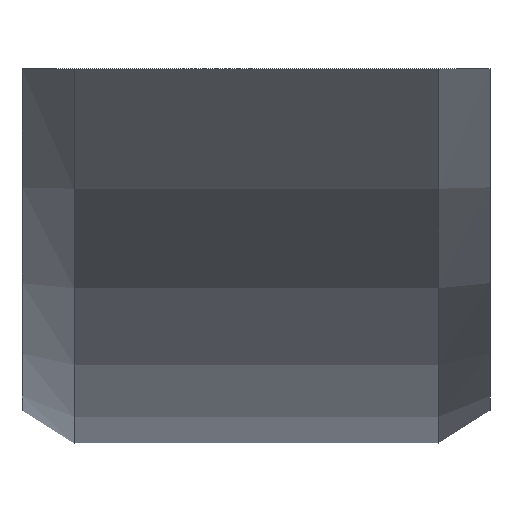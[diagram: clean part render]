
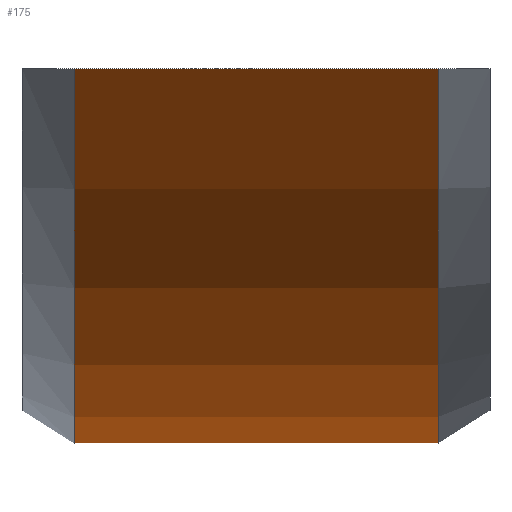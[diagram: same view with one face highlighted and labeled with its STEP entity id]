
A CAD part, front view. The second image highlights one B-rep face of the part: STEP entity #175.
In plain terms, the highlighted cylindrical face has radius 50 mm (diameter 100 mm), a partial arc.
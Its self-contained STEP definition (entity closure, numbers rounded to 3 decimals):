
#16=CYLINDRICAL_SURFACE('',#215,50.);
#22=CIRCLE('',#207,50.);
#26=CIRCLE('',#214,50.);
#34=FACE_OUTER_BOUND('',#44,.T.);
#44=EDGE_LOOP('',(#152,#153,#154,#155));
#55=LINE('',#284,#67);
#61=LINE('',#304,#73);
#67=VECTOR('',#227,10.);
#73=VECTOR('',#233,10.);
#80=VERTEX_POINT('',#279);
#81=VERTEX_POINT('',#283);
#88=VERTEX_POINT('',#299);
#89=VERTEX_POINT('',#303);
#96=EDGE_CURVE('',#81,#80,#55,.T.);
#104=EDGE_CURVE('',#89,#88,#61,.T.);
#110=EDGE_CURVE('',#81,#88,#22,.T.);
#114=EDGE_CURVE('',#80,#89,#26,.T.);
#152=ORIENTED_EDGE('',*,*,#104,.T.);
#153=ORIENTED_EDGE('',*,*,#110,.F.);
#154=ORIENTED_EDGE('',*,*,#96,.T.);
#155=ORIENTED_EDGE('',*,*,#114,.T.);
#175=ADVANCED_FACE('',(#34),#16,.T.);
#207=AXIS2_PLACEMENT_3D('',#316,#244,#245);
#214=AXIS2_PLACEMENT_3D('',#323,#258,#259);
#215=AXIS2_PLACEMENT_3D('',#324,#260,#261);
#227=DIRECTION('',(1.,0.,0.));
#233=DIRECTION('',(-1.,0.,0.));
#244=DIRECTION('center_axis',(-1.,0.,0.));
#245=DIRECTION('ref_axis',(0.,0.866,-0.5));
#258=DIRECTION('center_axis',(-1.,0.,0.));
#259=DIRECTION('ref_axis',(0.,0.866,-0.5));
#260=DIRECTION('center_axis',(-1.,0.,0.));
#261=DIRECTION('ref_axis',(0.,0.866,-0.5));
#279=CARTESIAN_POINT('',(7.7,36.661,0.));
#283=CARTESIAN_POINT('',(-7.7,36.661,0.));
#284=CARTESIAN_POINT('',(0.,36.661,0.));
#299=CARTESIAN_POINT('',(-7.7,-36.661,0.));
#303=CARTESIAN_POINT('',(7.7,-36.661,0.));
#304=CARTESIAN_POINT('',(0.,-36.661,0.));
#316=CARTESIAN_POINT('Origin',(-7.7,0.,34.));
#323=CARTESIAN_POINT('Origin',(7.7,0.,34.));
#324=CARTESIAN_POINT('Origin',(0.,0.,34.));
